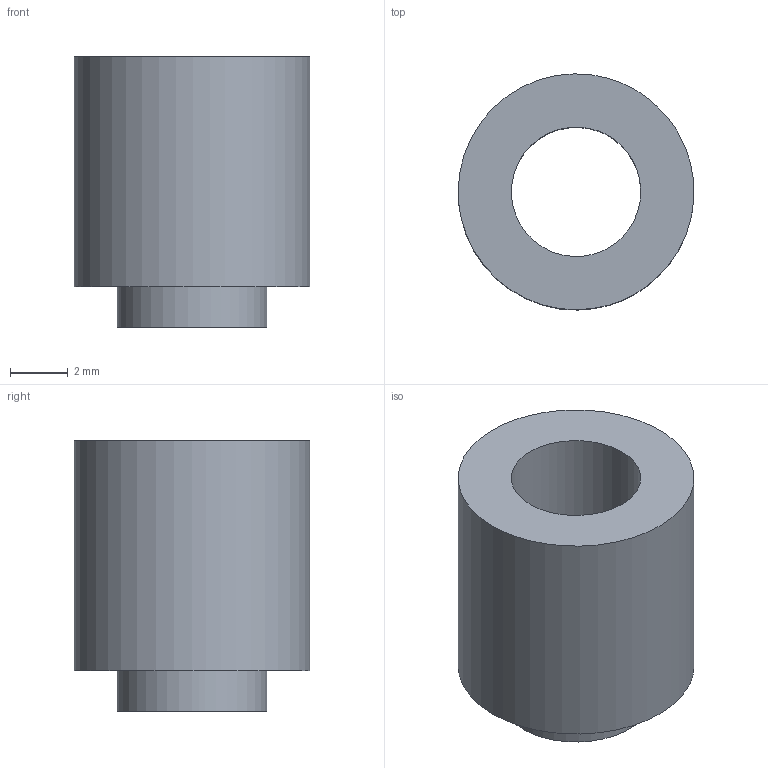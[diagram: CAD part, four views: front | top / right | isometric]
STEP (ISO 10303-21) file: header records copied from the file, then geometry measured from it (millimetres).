
FILE_DESCRIPTION(('FreeCAD Model'),'2;1');
FILE_NAME('Open CASCADE Shape Model','2026-03-20T17:23:24',('Author'),( ''),'Open CASCADE STEP processor 7.8','FreeCAD','Unknown');
FILE_SCHEMA(('AP242_MANAGED_MODEL_BASED_3D_ENGINEERING_MIM_LF. {1 0 10303 442 1 1 4 }'));
Length unit declared in the file: millimetre
Products named in the file (1): 1_transformed
Bounding box: 8.19 x 8.2 x 9.4 mm (x, y, z)
Volume: 305.3 mm3; surface area: 436.6 mm2
Topology: 1 solids, 1 shells, 6 faces, 9 edges, 6 vertices
Faces by surface type: bspline 6
Entity records: 201 total; most frequent: CARTESIAN_POINT 109, ORIENTED_EDGE 18, FACE_BOUND 9, EDGE_LOOP 9, EDGE_CURVE 9, ADVANCED_FACE 6, VERTEX_POINT 6, B_SPLINE_CURVE_WITH_KNOTS 3
